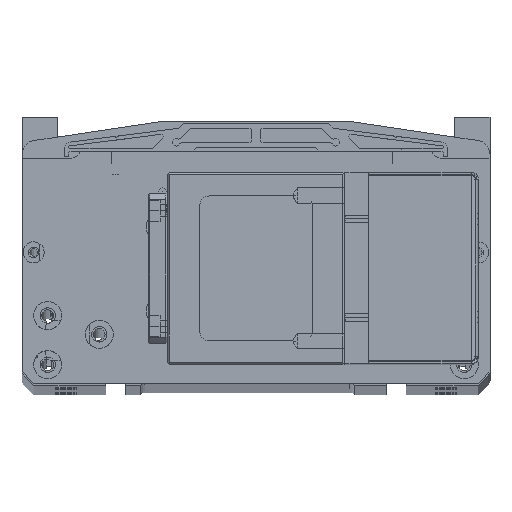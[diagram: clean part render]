
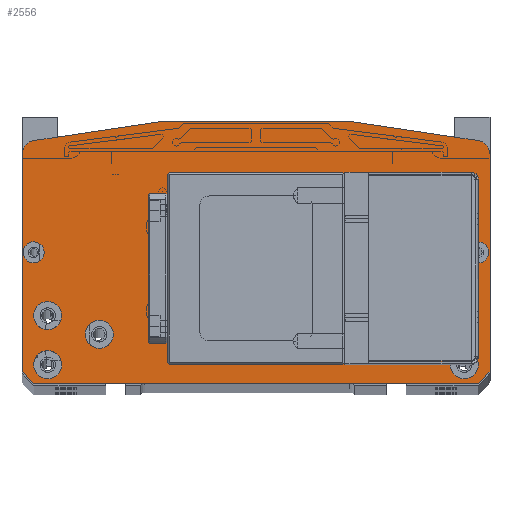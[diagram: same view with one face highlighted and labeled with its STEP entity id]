
A CAD part, top view. The second image highlights one B-rep face of the part: STEP entity #2556.
In plain terms, the highlighted planar face has unit normal (0, 0, 1).
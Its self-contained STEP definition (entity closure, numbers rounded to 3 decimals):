
#604=FACE_BOUND('',#5137,.T.);
#605=FACE_BOUND('',#5138,.T.);
#606=FACE_BOUND('',#5139,.T.);
#607=FACE_BOUND('',#5140,.T.);
#608=FACE_BOUND('',#5141,.T.);
#609=FACE_BOUND('',#5142,.T.);
#610=FACE_BOUND('',#5143,.T.);
#611=FACE_BOUND('',#5144,.T.);
#612=FACE_BOUND('',#5145,.T.);
#613=FACE_BOUND('',#5146,.T.);
#614=FACE_BOUND('',#5147,.T.);
#615=FACE_BOUND('',#5148,.T.);
#616=FACE_BOUND('',#5149,.T.);
#2556=ADVANCED_FACE('',(#604,#605,#606,#607,#608,#609,#610,#611,#612,#613,
#614,#615,#616),#3243,.F.);
#3243=PLANE('',#21476);
#5137=EDGE_LOOP('',(#10312,#10313,#10314,#10315));
#5138=EDGE_LOOP('',(#10316,#10317,#10318,#10319));
#5139=EDGE_LOOP('',(#10320));
#5140=EDGE_LOOP('',(#10321));
#5141=EDGE_LOOP('',(#10322,#10323,#10324,#10325,#10326,#10327,#10328,#10329,
#10330,#10331));
#5142=EDGE_LOOP('',(#10332));
#5143=EDGE_LOOP('',(#10333));
#5144=EDGE_LOOP('',(#10334));
#5145=EDGE_LOOP('',(#10335));
#5146=EDGE_LOOP('',(#10336));
#5147=EDGE_LOOP('',(#10337));
#5148=EDGE_LOOP('',(#10338));
#5149=EDGE_LOOP('',(#10339));
#6336=CIRCLE('',#21358,1.65);
#6351=CIRCLE('',#21387,1.65);
#6356=CIRCLE('',#21401,6.);
#6363=CIRCLE('',#21415,6.);
#6364=CIRCLE('',#21418,4.5);
#6368=CIRCLE('',#21425,4.5);
#6372=CIRCLE('',#21432,6.);
#6376=CIRCLE('',#21439,6.);
#6380=CIRCLE('',#21446,6.);
#6384=CIRCLE('',#21453,6.);
#6388=CIRCLE('',#21460,6.);
#6392=CIRCLE('',#21467,6.);
#10312=ORIENTED_EDGE('',*,*,#16393,.F.);
#10313=ORIENTED_EDGE('',*,*,#16394,.F.);
#10314=ORIENTED_EDGE('',*,*,#16395,.T.);
#10315=ORIENTED_EDGE('',*,*,#16396,.T.);
#10316=ORIENTED_EDGE('',*,*,#16236,.T.);
#10317=ORIENTED_EDGE('',*,*,#16239,.T.);
#10318=ORIENTED_EDGE('',*,*,#16259,.T.);
#10319=ORIENTED_EDGE('',*,*,#16232,.T.);
#10320=ORIENTED_EDGE('',*,*,#16294,.T.);
#10321=ORIENTED_EDGE('',*,*,#16322,.T.);
#10322=ORIENTED_EDGE('',*,*,#16327,.F.);
#10323=ORIENTED_EDGE('',*,*,#15169,.T.);
#10324=ORIENTED_EDGE('',*,*,#16359,.F.);
#10325=ORIENTED_EDGE('',*,*,#15193,.T.);
#10326=ORIENTED_EDGE('',*,*,#16358,.F.);
#10327=ORIENTED_EDGE('',*,*,#16329,.F.);
#10328=ORIENTED_EDGE('',*,*,#16335,.T.);
#10329=ORIENTED_EDGE('',*,*,#16338,.F.);
#10330=ORIENTED_EDGE('',*,*,#16339,.F.);
#10331=ORIENTED_EDGE('',*,*,#14864,.T.);
#10332=ORIENTED_EDGE('',*,*,#16389,.T.);
#10333=ORIENTED_EDGE('',*,*,#16385,.T.);
#10334=ORIENTED_EDGE('',*,*,#16381,.T.);
#10335=ORIENTED_EDGE('',*,*,#16377,.T.);
#10336=ORIENTED_EDGE('',*,*,#16373,.T.);
#10337=ORIENTED_EDGE('',*,*,#16369,.T.);
#10338=ORIENTED_EDGE('',*,*,#16365,.T.);
#10339=ORIENTED_EDGE('',*,*,#16361,.T.);
#12789=VERTEX_POINT('',#31620);
#12790=VERTEX_POINT('',#31622);
#12972=VERTEX_POINT('',#32820);
#12973=VERTEX_POINT('',#32822);
#12982=VERTEX_POINT('',#32865);
#12983=VERTEX_POINT('',#32867);
#13665=VERTEX_POINT('',#36860);
#13669=VERTEX_POINT('',#36869);
#13672=VERTEX_POINT('',#36877);
#13674=VERTEX_POINT('',#36883);
#13715=VERTEX_POINT('',#37017);
#13732=VERTEX_POINT('',#37076);
#13739=VERTEX_POINT('',#37096);
#13740=VERTEX_POINT('',#37097);
#13744=VERTEX_POINT('',#37107);
#13746=VERTEX_POINT('',#37113);
#13753=VERTEX_POINT('',#37154);
#13756=VERTEX_POINT('',#37164);
#13759=VERTEX_POINT('',#37174);
#13762=VERTEX_POINT('',#37184);
#13765=VERTEX_POINT('',#37194);
#13768=VERTEX_POINT('',#37204);
#13771=VERTEX_POINT('',#37214);
#13774=VERTEX_POINT('',#37224);
#13777=VERTEX_POINT('',#37236);
#13778=VERTEX_POINT('',#37237);
#13779=VERTEX_POINT('',#37239);
#13780=VERTEX_POINT('',#37241);
#14864=EDGE_CURVE('',#12790,#12789,#17302,.T.);
#15169=EDGE_CURVE('',#12973,#12972,#17495,.T.);
#15193=EDGE_CURVE('',#12983,#12982,#17515,.T.);
#16232=EDGE_CURVE('',#13665,#13669,#18120,.T.);
#16236=EDGE_CURVE('',#13669,#13672,#18124,.T.);
#16239=EDGE_CURVE('',#13672,#13674,#18127,.T.);
#16259=EDGE_CURVE('',#13674,#13665,#18147,.T.);
#16294=EDGE_CURVE('',#13715,#13715,#6336,.T.);
#16322=EDGE_CURVE('',#13732,#13732,#6351,.T.);
#16327=EDGE_CURVE('',#12973,#12789,#18167,.T.);
#16329=EDGE_CURVE('',#13739,#13740,#18169,.T.);
#16335=EDGE_CURVE('',#13739,#13744,#18175,.T.);
#16338=EDGE_CURVE('',#13746,#13744,#18178,.T.);
#16339=EDGE_CURVE('',#12790,#13746,#6356,.T.);
#16358=EDGE_CURVE('',#13740,#12982,#6363,.T.);
#16359=EDGE_CURVE('',#12983,#12972,#18191,.T.);
#16361=EDGE_CURVE('',#13753,#13753,#6364,.T.);
#16365=EDGE_CURVE('',#13756,#13756,#6368,.T.);
#16369=EDGE_CURVE('',#13759,#13759,#6372,.T.);
#16373=EDGE_CURVE('',#13762,#13762,#6376,.T.);
#16377=EDGE_CURVE('',#13765,#13765,#6380,.T.);
#16381=EDGE_CURVE('',#13768,#13768,#6384,.T.);
#16385=EDGE_CURVE('',#13771,#13771,#6388,.T.);
#16389=EDGE_CURVE('',#13774,#13774,#6392,.T.);
#16393=EDGE_CURVE('',#13777,#13778,#18193,.T.);
#16394=EDGE_CURVE('',#13779,#13777,#18194,.T.);
#16395=EDGE_CURVE('',#13779,#13780,#18195,.T.);
#16396=EDGE_CURVE('',#13780,#13778,#18196,.T.);
#17302=LINE('',#31621,#18822);
#17495=LINE('',#32821,#19015);
#17515=LINE('',#32866,#19035);
#18120=LINE('',#36870,#19640);
#18124=LINE('',#36878,#19644);
#18127=LINE('',#36884,#19647);
#18147=LINE('',#36920,#19667);
#18167=LINE('',#37092,#19687);
#18169=LINE('',#37095,#19689);
#18175=LINE('',#37108,#19695);
#18178=LINE('',#37114,#19698);
#18191=LINE('',#37150,#19711);
#18193=LINE('',#37235,#19713);
#18194=LINE('',#37238,#19714);
#18195=LINE('',#37240,#19715);
#18196=LINE('',#37242,#19716);
#18822=VECTOR('',#23091,1.);
#19015=VECTOR('',#23576,1.);
#19035=VECTOR('',#23626,1.);
#19640=VECTOR('',#25679,1.);
#19644=VECTOR('',#25685,1.);
#19647=VECTOR('',#25690,1.);
#19667=VECTOR('',#25722,1.);
#19687=VECTOR('',#25938,1.);
#19689=VECTOR('',#25942,1.);
#19695=VECTOR('',#25950,1.);
#19698=VECTOR('',#25955,1.);
#19711=VECTOR('',#26002,1.);
#19713=VECTOR('',#26122,1.);
#19714=VECTOR('',#26123,1.);
#19715=VECTOR('',#26124,1.);
#19716=VECTOR('',#26125,1.);
#21358=AXIS2_PLACEMENT_3D('',#37016,#25847,#25848);
#21387=AXIS2_PLACEMENT_3D('',#37075,#25918,#25919);
#21401=AXIS2_PLACEMENT_3D('',#37116,#25958,#25959);
#21415=AXIS2_PLACEMENT_3D('',#37148,#25998,#25999);
#21418=AXIS2_PLACEMENT_3D('',#37153,#26006,#26007);
#21425=AXIS2_PLACEMENT_3D('',#37163,#26020,#26021);
#21432=AXIS2_PLACEMENT_3D('',#37173,#26034,#26035);
#21439=AXIS2_PLACEMENT_3D('',#37183,#26048,#26049);
#21446=AXIS2_PLACEMENT_3D('',#37193,#26062,#26063);
#21453=AXIS2_PLACEMENT_3D('',#37203,#26076,#26077);
#21460=AXIS2_PLACEMENT_3D('',#37213,#26090,#26091);
#21467=AXIS2_PLACEMENT_3D('',#37223,#26104,#26105);
#21476=AXIS2_PLACEMENT_3D('',#37243,#26126,#26127);
#23091=DIRECTION('',(0.,-1.,0.));
#23576=DIRECTION('',(1.,0.,0.));
#23626=DIRECTION('',(0.,1.,0.));
#25679=DIRECTION('',(0.,1.,0.));
#25685=DIRECTION('',(1.,0.,0.));
#25690=DIRECTION('',(0.,-1.,0.));
#25722=DIRECTION('',(-1.,0.,0.));
#25847=DIRECTION('',(0.,0.,-1.));
#25848=DIRECTION('',(1.,0.,0.));
#25918=DIRECTION('',(0.,0.,-1.));
#25919=DIRECTION('',(1.,0.,0.));
#25938=DIRECTION('',(-0.707,0.707,0.));
#25942=DIRECTION('',(0.989,-0.148,0.));
#25950=DIRECTION('',(-1.,0.,0.));
#25955=DIRECTION('',(0.989,0.148,0.));
#25958=DIRECTION('',(0.,0.,-1.));
#25959=DIRECTION('',(-1.,0.,0.));
#25998=DIRECTION('',(0.,0.,-1.));
#25999=DIRECTION('',(0.148,0.989,0.));
#26002=DIRECTION('',(-0.707,-0.707,0.));
#26006=DIRECTION('',(0.,0.,-1.));
#26007=DIRECTION('',(1.,0.,0.));
#26020=DIRECTION('',(0.,0.,-1.));
#26021=DIRECTION('',(1.,0.,0.));
#26034=DIRECTION('',(0.,0.,-1.));
#26035=DIRECTION('',(1.,0.,0.));
#26048=DIRECTION('',(0.,0.,-1.));
#26049=DIRECTION('',(1.,0.,0.));
#26062=DIRECTION('',(0.,0.,-1.));
#26063=DIRECTION('',(1.,0.,0.));
#26076=DIRECTION('',(0.,0.,-1.));
#26077=DIRECTION('',(1.,0.,0.));
#26090=DIRECTION('',(0.,0.,-1.));
#26091=DIRECTION('',(1.,0.,0.));
#26104=DIRECTION('',(0.,0.,-1.));
#26105=DIRECTION('',(1.,0.,0.));
#26122=DIRECTION('',(1.,0.,0.));
#26123=DIRECTION('',(0.,-1.,0.));
#26124=DIRECTION('',(1.,0.,0.));
#26125=DIRECTION('',(0.,-1.,0.));
#26126=DIRECTION('',(0.,0.,-1.));
#26127=DIRECTION('',(-1.,0.,0.));
#31620=CARTESIAN_POINT('',(-100.,7.,463.));
#31621=CARTESIAN_POINT('',(-100.,99.833,463.));
#31622=CARTESIAN_POINT('',(-100.,99.833,463.));
#32820=CARTESIAN_POINT('',(95.,2.,463.));
#32821=CARTESIAN_POINT('',(67.5,2.,463.));
#32822=CARTESIAN_POINT('',(-95.,2.,463.));
#32865=CARTESIAN_POINT('',(100.,99.833,463.));
#32866=CARTESIAN_POINT('',(100.,7.,463.));
#32867=CARTESIAN_POINT('',(100.,7.,463.));
#36860=CARTESIAN_POINT('',(-37.,11.,463.));
#36869=CARTESIAN_POINT('',(-37.,91.,463.));
#36870=CARTESIAN_POINT('',(-37.,11.,463.));
#36877=CARTESIAN_POINT('',(37.,91.,463.));
#36878=CARTESIAN_POINT('',(-37.,91.,463.));
#36883=CARTESIAN_POINT('',(37.,11.,463.));
#36884=CARTESIAN_POINT('',(37.,91.,463.));
#36920=CARTESIAN_POINT('',(37.,11.,463.));
#37016=CARTESIAN_POINT('',(42.,69.,463.));
#37017=CARTESIAN_POINT('',(43.65,69.,463.));
#37075=CARTESIAN_POINT('',(42.,33.,463.));
#37076=CARTESIAN_POINT('',(43.65,33.,463.));
#37092=CARTESIAN_POINT('',(-95.,2.,463.));
#37095=CARTESIAN_POINT('',(40.,114.,463.));
#37096=CARTESIAN_POINT('',(40.,114.,463.));
#37097=CARTESIAN_POINT('',(94.89,105.766,463.));
#37107=CARTESIAN_POINT('',(-40.,114.,463.));
#37108=CARTESIAN_POINT('',(40.,114.,463.));
#37113=CARTESIAN_POINT('',(-94.89,105.766,463.));
#37114=CARTESIAN_POINT('',(-94.89,105.766,463.));
#37116=CARTESIAN_POINT('',(-94.,99.833,463.));
#37148=CARTESIAN_POINT('',(94.,99.833,463.));
#37150=CARTESIAN_POINT('',(100.,7.,463.));
#37153=CARTESIAN_POINT('',(-95.,58.,463.));
#37154=CARTESIAN_POINT('',(-90.5,58.,463.));
#37163=CARTESIAN_POINT('',(95.,58.,463.));
#37164=CARTESIAN_POINT('',(99.5,58.,463.));
#37173=CARTESIAN_POINT('',(-67.,23.,463.));
#37174=CARTESIAN_POINT('',(-61.,23.,463.));
#37183=CARTESIAN_POINT('',(67.,23.,463.));
#37184=CARTESIAN_POINT('',(73.,23.,463.));
#37193=CARTESIAN_POINT('',(-89.,31.,463.));
#37194=CARTESIAN_POINT('',(-83.,31.,463.));
#37203=CARTESIAN_POINT('',(89.,31.,463.));
#37204=CARTESIAN_POINT('',(95.,31.,463.));
#37213=CARTESIAN_POINT('',(-89.,10.,463.));
#37214=CARTESIAN_POINT('',(-83.,10.,463.));
#37223=CARTESIAN_POINT('',(89.,10.,463.));
#37224=CARTESIAN_POINT('',(95.,10.,463.));
#37235=CARTESIAN_POINT('',(-45.5,21.534,463.));
#37236=CARTESIAN_POINT('',(-45.5,21.534,463.));
#37237=CARTESIAN_POINT('',(-38.5,21.534,463.));
#37238=CARTESIAN_POINT('',(-45.5,80.466,463.));
#37239=CARTESIAN_POINT('',(-45.5,80.466,463.));
#37240=CARTESIAN_POINT('',(-45.5,80.466,463.));
#37241=CARTESIAN_POINT('',(-38.5,80.466,463.));
#37242=CARTESIAN_POINT('',(-38.5,80.466,463.));
#37243=CARTESIAN_POINT('',(0.,2.,463.));
